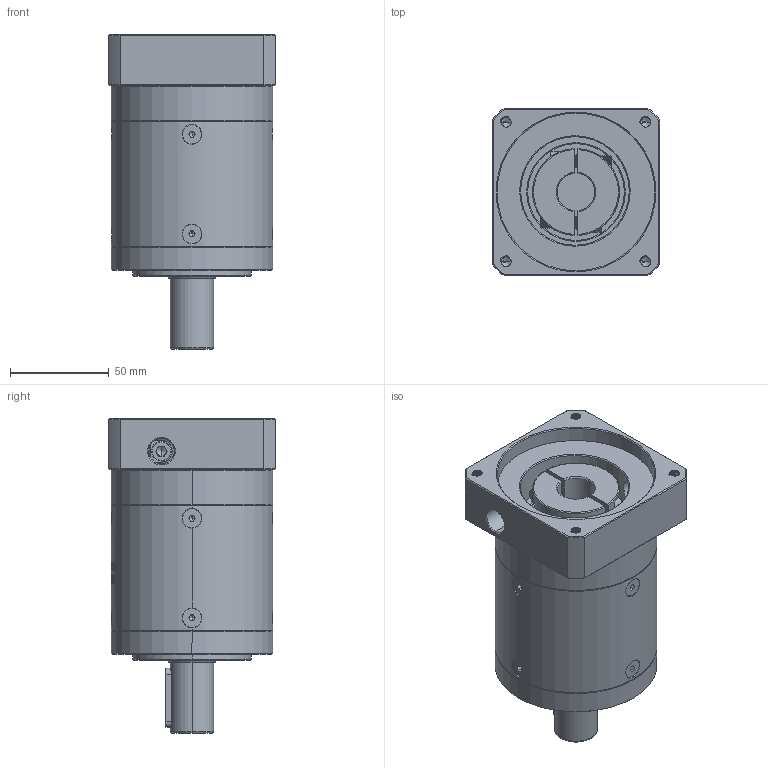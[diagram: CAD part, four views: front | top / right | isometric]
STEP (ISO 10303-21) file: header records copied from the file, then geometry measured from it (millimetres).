
FILE_DESCRIPTION (( 'STEP AP214' ), '1' );
FILE_NAME ('ZE080-D22-L2-P2-19-80-100-M6.step', '2023-08-25T09:42:01', ( '' ), ( '' ), 'SwSTEP 2.0', 'SolidWorks 2016', '' );
FILE_SCHEMA (( 'AUTOMOTIVE_DESIGN' ));
Length unit declared in the file: millimetre
Products named in the file (1): ZE080-D22-L2-P2-19-80-100-M6
Bounding box: 85 x 85 x 159.5 mm (x, y, z)
Volume: 614686.4 mm3; surface area: 89946.4 mm2
Topology: 13 solids, 13 shells, 2225 faces, 5840 edges, 3709 vertices
Faces by surface type: plane 1059, cylinder 407, bspline 397, cone 325, torus 37
Entity records: 121261 total; most frequent: CARTESIAN_POINT 47200, ORIENTED_EDGE 11604, DIRECTION 8519, EDGE_CURVE 5802, VERTEX_POINT 3709, LINE 3079, VECTOR 3079, AXIS2_PLACEMENT_3D 2720
